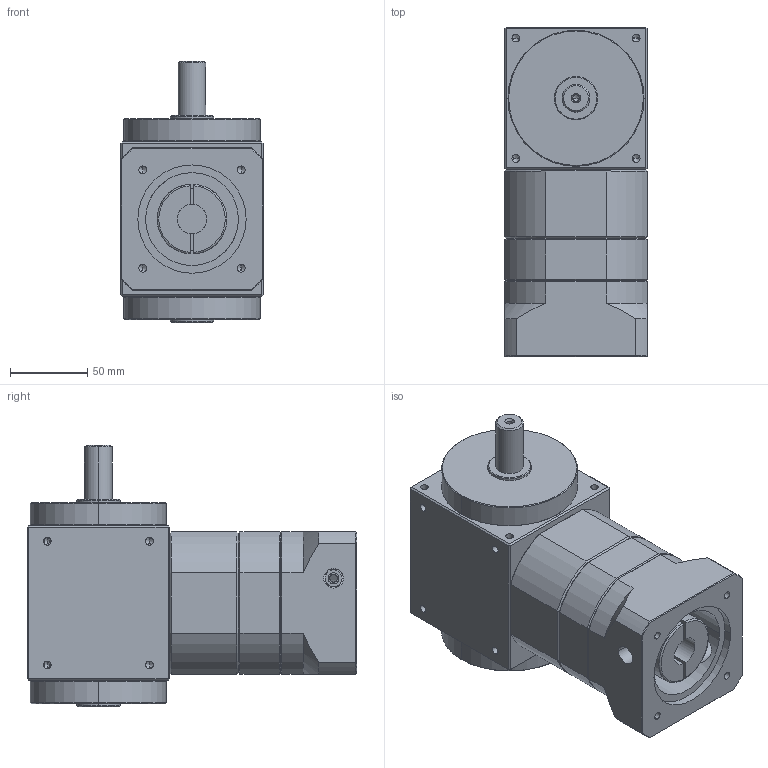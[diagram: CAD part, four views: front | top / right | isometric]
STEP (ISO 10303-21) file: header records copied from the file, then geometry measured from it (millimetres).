
FILE_DESCRIPTION (( 'STEP AP203' ), '1' );
FILE_NAME ('KHT90-S1-L2£r70PCD£r90M6.STEP', '2014-03-27T00:15:46', ( 'KELLY' ), ( '' ), 'SwSTEP 2.0', 'SolidWorks 2012', '' );
FILE_SCHEMA (( 'CONFIG_CONTROL_DESIGN' ));
Length unit declared in the file: millimetre
Products named in the file (1): KHT90-S1-L2｣r70PCD｣r90M6
Bounding box: 92 x 213 x 169 mm (x, y, z)
Volume: 1870529.7 mm3; surface area: 182893.5 mm2
Topology: 6 solids, 6 shells, 336 faces, 769 edges, 420 vertices
Faces by surface type: cylinder 137, cone 102, plane 93, torus 4
Entity records: 9891 total; most frequent: CARTESIAN_POINT 2634, DIRECTION 1536, ORIENTED_EDGE 1438, EDGE_CURVE 719, AXIS2_PLACEMENT_3D 608, VERTEX_POINT 420, EDGE_LOOP 381, ADVANCED_FACE 336
